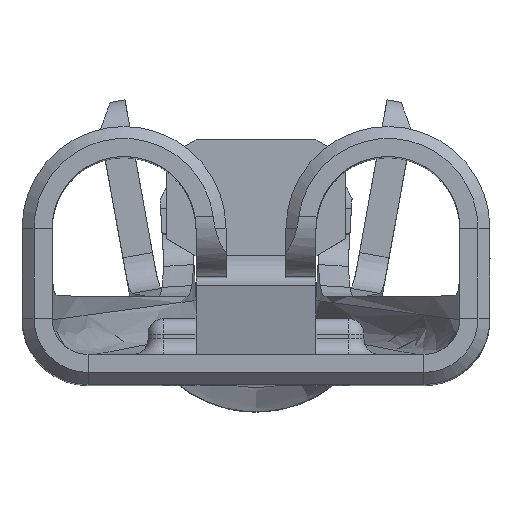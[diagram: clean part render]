
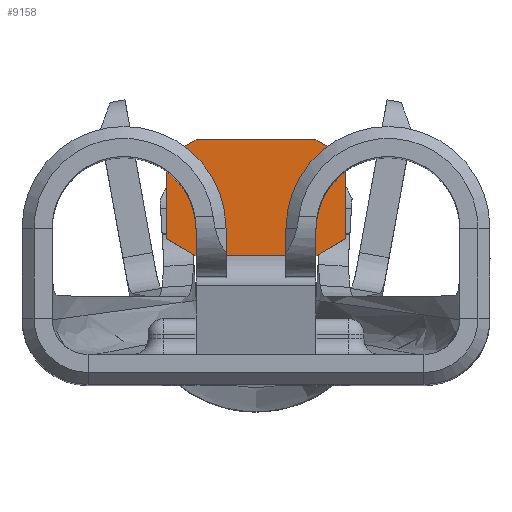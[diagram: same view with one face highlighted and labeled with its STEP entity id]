
A CAD part, top view. The second image highlights one B-rep face of the part: STEP entity #9158.
In plain terms, the highlighted planar face has unit normal (0, 0, 1).
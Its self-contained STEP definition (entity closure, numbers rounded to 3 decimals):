
#2933=DIRECTION('',(0.866,-0.5,0.));
#2934=VECTOR('',#2933,0.289);
#2935=CARTESIAN_POINT('',(0.5,1.8,-0.55));
#2936=LINE('',#2935,#2934);
#2940=DIRECTION('',(0.,1.,0.));
#2941=VECTOR('',#2940,0.679);
#2942=CARTESIAN_POINT('',(0.75,0.977,-0.55));
#2943=LINE('',#2942,#2941);
#2947=DIRECTION('',(-0.866,-0.5,0.));
#2948=VECTOR('',#2947,0.289);
#2949=CARTESIAN_POINT('',(0.75,0.977,-0.55));
#2950=LINE('',#2949,#2948);
#2954=DIRECTION('',(1.,0.,0.));
#2955=VECTOR('',#2954,1.);
#2956=CARTESIAN_POINT('',(-0.5,0.833,-0.55));
#2957=LINE('',#2956,#2955);
#2961=DIRECTION('',(0.866,-0.5,0.));
#2962=VECTOR('',#2961,0.289);
#2963=CARTESIAN_POINT('',(-0.75,0.977,-0.55));
#2964=LINE('',#2963,#2962);
#2968=DIRECTION('',(0.,1.,0.));
#2969=VECTOR('',#2968,0.679);
#2970=CARTESIAN_POINT('',(-0.75,0.977,-0.55));
#2971=LINE('',#2970,#2969);
#2975=DIRECTION('',(-0.866,-0.5,0.));
#2976=VECTOR('',#2975,0.289);
#2977=CARTESIAN_POINT('',(-0.5,1.8,-0.55));
#2978=LINE('',#2977,#2976);
#2982=DIRECTION('',(1.,0.,0.));
#2983=VECTOR('',#2982,1.);
#2984=CARTESIAN_POINT('',(-0.5,1.8,-0.55));
#2985=LINE('',#2984,#2983);
#5234=CARTESIAN_POINT('',(-0.5,0.833,-0.55));
#5235=VERTEX_POINT('',#5234);
#5240=CARTESIAN_POINT('',(0.5,0.833,-0.55));
#5241=VERTEX_POINT('',#5240);
#5262=CARTESIAN_POINT('',(-0.75,0.977,-0.55));
#5263=VERTEX_POINT('',#5262);
#5264=CARTESIAN_POINT('',(-0.75,1.656,-0.55));
#5265=VERTEX_POINT('',#5264);
#5270=CARTESIAN_POINT('',(-0.5,1.8,-0.55));
#5271=VERTEX_POINT('',#5270);
#5274=CARTESIAN_POINT('',(0.75,0.977,-0.55));
#5275=VERTEX_POINT('',#5274);
#5276=CARTESIAN_POINT('',(0.75,1.656,-0.55));
#5277=VERTEX_POINT('',#5276);
#5282=CARTESIAN_POINT('',(0.5,1.8,-0.55));
#5283=VERTEX_POINT('',#5282);
#9136=CARTESIAN_POINT('',(-0.5,0.833,-0.55));
#9137=DIRECTION('',(0.,0.,-1.));
#9138=DIRECTION('',(0.,1.,0.));
#9139=AXIS2_PLACEMENT_3D('',#9136,#9137,#9138);
#9140=PLANE('',#9139);
#9142=ORIENTED_EDGE('',*,*,#9141,.T.);
#9144=ORIENTED_EDGE('',*,*,#9143,.T.);
#9146=ORIENTED_EDGE('',*,*,#9145,.F.);
#9148=ORIENTED_EDGE('',*,*,#9147,.T.);
#9149=ORIENTED_EDGE('',*,*,#9128,.F.);
#9151=ORIENTED_EDGE('',*,*,#9150,.F.);
#9153=ORIENTED_EDGE('',*,*,#9152,.T.);
#9155=ORIENTED_EDGE('',*,*,#9154,.F.);
#9156=EDGE_LOOP('',(#9142,#9144,#9146,#9148,#9149,#9151,#9153,#9155));
#9157=FACE_OUTER_BOUND('',#9156,.F.);
#9158=ADVANCED_FACE('',(#9157),#9140,.F.);
#9128=EDGE_CURVE('',#5235,#5241,#2957,.T.);
#9141=EDGE_CURVE('',#5271,#5283,#2985,.T.);
#9143=EDGE_CURVE('',#5283,#5277,#2936,.T.);
#9145=EDGE_CURVE('',#5275,#5277,#2943,.T.);
#9147=EDGE_CURVE('',#5275,#5241,#2950,.T.);
#9150=EDGE_CURVE('',#5263,#5235,#2964,.T.);
#9152=EDGE_CURVE('',#5263,#5265,#2971,.T.);
#9154=EDGE_CURVE('',#5271,#5265,#2978,.T.);
